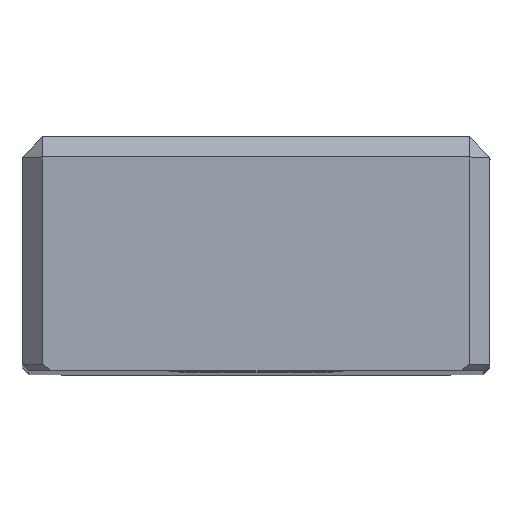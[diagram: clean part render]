
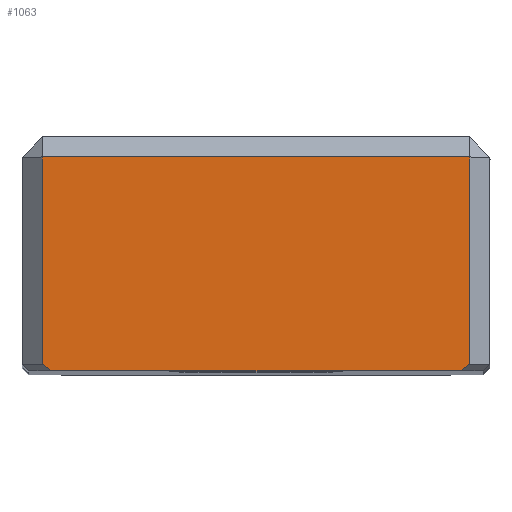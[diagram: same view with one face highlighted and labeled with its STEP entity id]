
A CAD part, top view. The second image highlights one B-rep face of the part: STEP entity #1063.
In plain terms, the highlighted planar face has unit normal (0, 0, 1).
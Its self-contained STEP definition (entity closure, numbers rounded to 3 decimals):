
#1020=AXIS2_PLACEMENT_3D('Plane Axis2P3D',#1017,#1018,#1019) ;
#456=CARTESIAN_POINT('Vertex',(-32.,-3.,0.)) ;
#459=CARTESIAN_POINT('Line Origine',(0.,-3.,0.)) ;
#463=CARTESIAN_POINT('Vertex',(32.,-3.,0.)) ;
#1017=CARTESIAN_POINT('Axis2P3D Location',(35.,0.,0.)) ;
#1022=CARTESIAN_POINT('Line Origine',(31.293,-34.5,0.)) ;
#1026=CARTESIAN_POINT('Vertex',(32.,-34.,0.)) ;
#1028=CARTESIAN_POINT('Vertex',(30.586,-35.,0.)) ;
#1031=CARTESIAN_POINT('Line Origine',(32.,-18.5,0.)) ;
#1036=CARTESIAN_POINT('Line Origine',(-32.,-18.5,0.)) ;
#1040=CARTESIAN_POINT('Vertex',(-32.,-34.,0.)) ;
#1043=CARTESIAN_POINT('Line Origine',(-31.293,-34.5,0.)) ;
#1047=CARTESIAN_POINT('Vertex',(-30.586,-35.,0.)) ;
#1050=CARTESIAN_POINT('Line Origine',(0.,-35.,0.)) ;
#460=DIRECTION('Vector Direction',(1.,0.,0.)) ;
#1018=DIRECTION('Axis2P3D Direction',(0.,0.,1.)) ;
#1019=DIRECTION('Axis2P3D XDirection',(-1.,0.,0.)) ;
#1023=DIRECTION('Vector Direction',(0.816,0.577,0.)) ;
#1032=DIRECTION('Vector Direction',(0.,-1.,0.)) ;
#1037=DIRECTION('Vector Direction',(0.,1.,0.)) ;
#1044=DIRECTION('Vector Direction',(0.816,-0.577,0.)) ;
#1051=DIRECTION('Vector Direction',(1.,0.,0.)) ;
#461=VECTOR('Line Direction',#460,1.) ;
#1024=VECTOR('Line Direction',#1023,1.) ;
#1033=VECTOR('Line Direction',#1032,1.) ;
#1038=VECTOR('Line Direction',#1037,1.) ;
#1045=VECTOR('Line Direction',#1044,1.) ;
#1052=VECTOR('Line Direction',#1051,1.) ;
#1056=ORIENTED_EDGE('',*,*,#1030,.F.) ;
#1057=ORIENTED_EDGE('',*,*,#1035,.F.) ;
#1058=ORIENTED_EDGE('',*,*,#465,.F.) ;
#1059=ORIENTED_EDGE('',*,*,#1042,.F.) ;
#1060=ORIENTED_EDGE('',*,*,#1049,.F.) ;
#1061=ORIENTED_EDGE('',*,*,#1054,.T.) ;
#1063=ADVANCED_FACE('MANIFOLD_SOLID_BREP #2909',(#1062),#1021,.T.) ;
#465=EDGE_CURVE('',#457,#464,#462,.T.) ;
#1030=EDGE_CURVE('',#1027,#1029,#1025,.F.) ;
#1035=EDGE_CURVE('',#464,#1027,#1034,.T.) ;
#1042=EDGE_CURVE('',#1041,#457,#1039,.T.) ;
#1049=EDGE_CURVE('',#1048,#1041,#1046,.F.) ;
#1054=EDGE_CURVE('',#1048,#1029,#1053,.T.) ;
#1055=EDGE_LOOP('',(#1056,#1057,#1058,#1059,#1060,#1061)) ;
#1062=FACE_OUTER_BOUND('',#1055,.T.) ;
#462=LINE('Line',#459,#461) ;
#1025=LINE('Line',#1022,#1024) ;
#1034=LINE('Line',#1031,#1033) ;
#1039=LINE('Line',#1036,#1038) ;
#1046=LINE('Line',#1043,#1045) ;
#1053=LINE('Line',#1050,#1052) ;
#1021=PLANE('Plane',#1020) ;
#457=VERTEX_POINT('',#456) ;
#464=VERTEX_POINT('',#463) ;
#1027=VERTEX_POINT('',#1026) ;
#1029=VERTEX_POINT('',#1028) ;
#1041=VERTEX_POINT('',#1040) ;
#1048=VERTEX_POINT('',#1047) ;
